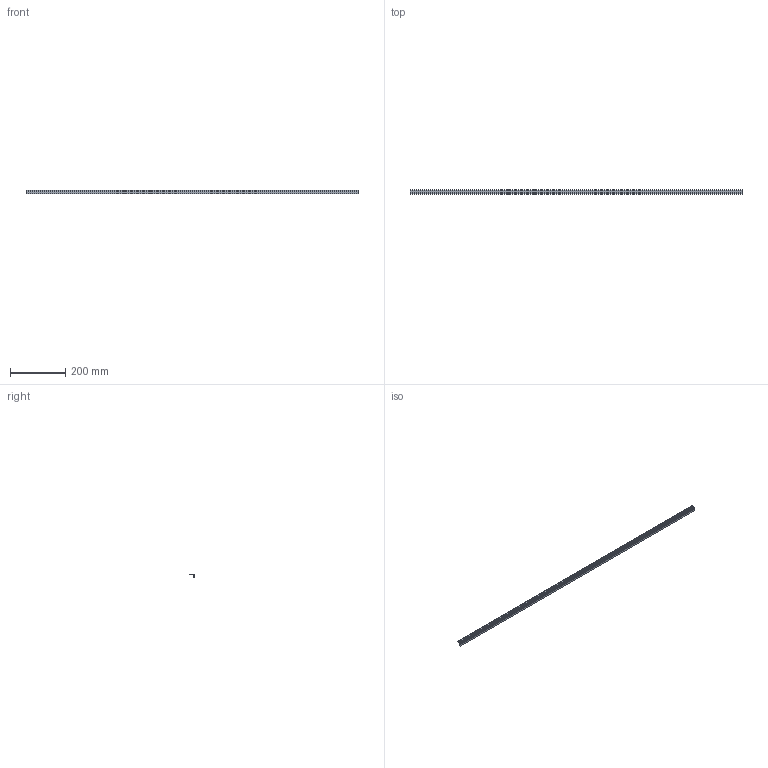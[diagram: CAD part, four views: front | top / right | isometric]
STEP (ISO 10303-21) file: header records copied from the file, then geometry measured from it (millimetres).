
FILE_DESCRIPTION(('CATIA V5 STEP Exchange'),'2;1');
FILE_NAME('C:\Users\varg\Desktop\VIJAY\9237989_3D.stp','2017-09-18T10:17:06+00:00',('none'),('none'),'CATIA Version 5 Release 20 SP 7 (IN-10)','CATIA V5 STEP AP203','none');
FILE_SCHEMA(('CONFIG_CONTROL_DESIGN'));
Length unit declared in the file: millimetre
Products named in the file (1): 9237989_3D
Bounding box: 1200 x 16 x 13.1 mm (x, y, z)
Volume: 57838.6 mm3; surface area: 81040.4 mm2
Topology: 1 solids, 1 shells, 38 faces, 108 edges, 72 vertices
Faces by surface type: plane 34, bspline 4
Entity records: 1322 total; most frequent: CARTESIAN_POINT 331, ORIENTED_EDGE 216, DIRECTION 164, EDGE_CURVE 108, VECTOR 96, LINE 96, VERTEX_POINT 72, ADVANCED_FACE 38
